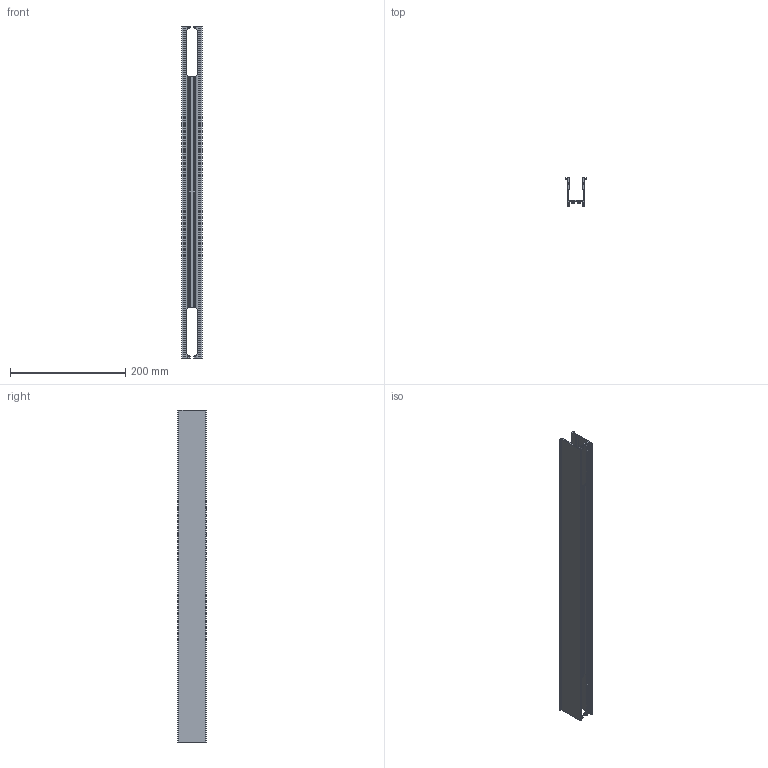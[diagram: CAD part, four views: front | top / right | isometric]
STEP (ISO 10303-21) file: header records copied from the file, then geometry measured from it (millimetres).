
FILE_DESCRIPTION(/* description */ ('Unknown'),/* implementation_level */ '2;1');
FILE_NAME(/* name */ '98430',/* time_stamp */ '2023-02-07T04:26:20-05:00',/* author */ ('Unknown'),/* organization */ ('Unknown'),/* preprocessor_version */ 'ST-DEVELOPER v18.1',/* originating_system */ 'Solid Edge',/* authorisation */ 'Unknown');
FILE_SCHEMA (('AUTOMOTIVE_DESIGN {1 0 10303 214 3 1 1}'));
Length unit declared in the file: millimetre
Products named in the file (1): LED-PRO970
Bounding box: 36 x 49 x 577 mm (x, y, z)
Volume: 133737.2 mm3; surface area: 158294.8 mm2
Topology: 1 solids, 1 shells, 156 faces, 466 edges, 312 vertices
Faces by surface type: cylinder 100, plane 56
Entity records: 5494 total; most frequent: CARTESIAN_POINT 1269, ORIENTED_EDGE 932, DIRECTION 848, EDGE_CURVE 466, VERTEX_POINT 312, AXIS2_PLACEMENT_3D 305, LINE 238, VECTOR 238
